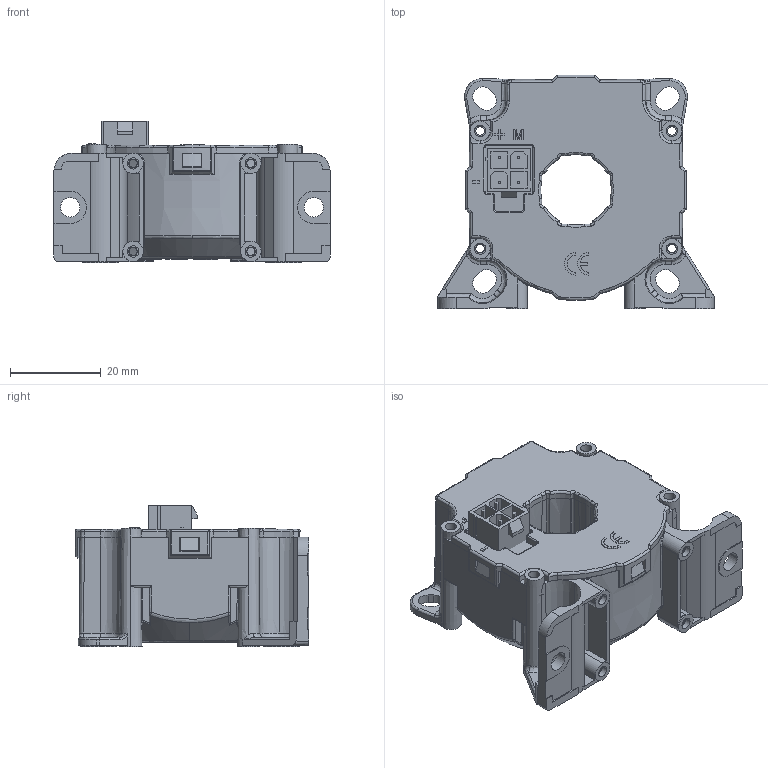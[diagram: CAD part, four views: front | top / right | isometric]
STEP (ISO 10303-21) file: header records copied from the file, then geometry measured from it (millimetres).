
FILE_DESCRIPTION(('CoCreate Modeling STEP Export'),'2;1');
FILE_NAME('LF 205-S_SP5_blackbox.pkg.stp','2009-03-16T 8:42:49',(''),(''),'CoCreate Modeling STEP processor for AP214 (Solid Model)','CoCreate Modeling 16.00A 16-Aug-2008 (C) Parametric Technology GmbH','');
FILE_SCHEMA(('AUTOMOTIVE_DESIGN { 1 0 10303 214 1 1 1 1 }'));
Length unit declared in the file: millimetre
Products named in the file (4): couvercle_Minifit; Boitier; molex4cts; LF205-S_SP5_blackbox
Assembly tree (3 placements, depth 2):
  LF205-S_SP5_blackbox
    molex4cts
    Boitier
    couvercle_Minifit
Bounding box: 61 x 51.63 x 31.29 mm (x, y, z)
Volume: 43568 mm3; surface area: 18416.3 mm2
Topology: 3 solids, 3 shells, 1453 faces, 3924 edges, 2543 vertices
Faces by surface type: plane 946, cylinder 214, bspline 163, extrusion 50, cone 48, torus 32
Entity records: 64839 total; most frequent: CARTESIAN_POINT 30202, ORIENTED_EDGE 7828, DIRECTION 5768, EDGE_CURVE 3914, VECTOR 2758, LINE 2708, VERTEX_POINT 2543, EDGE_LOOP 1563
